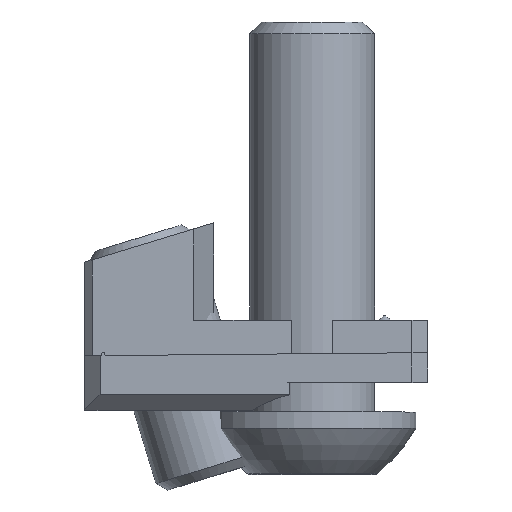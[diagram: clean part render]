
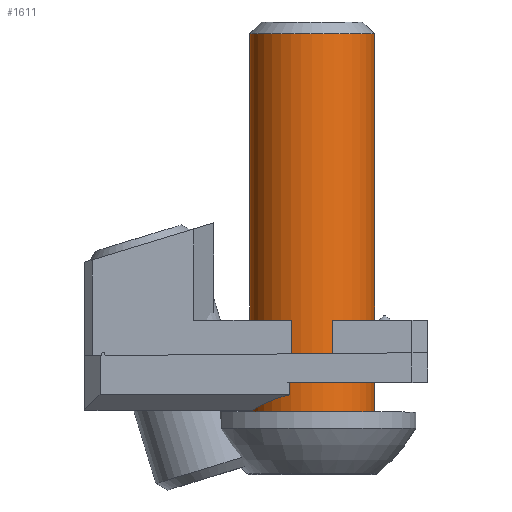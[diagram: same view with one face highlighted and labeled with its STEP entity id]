
A CAD part, top view. The second image highlights one B-rep face of the part: STEP entity #1611.
In plain terms, the highlighted cylindrical face has radius 4 mm (diameter 8 mm), a full revolution.
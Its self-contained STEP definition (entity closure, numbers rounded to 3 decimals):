
#57=CYLINDRICAL_SURFACE('',#1778,4.);
#129=CIRCLE('',#1777,4.);
#130=CIRCLE('',#1779,4.);
#525=ORIENTED_EDGE('',*,*,#787,.F.);
#526=ORIENTED_EDGE('',*,*,#786,.T.);
#786=EDGE_CURVE('',#950,#950,#129,.T.);
#787=EDGE_CURVE('',#951,#951,#130,.T.);
#950=VERTEX_POINT('',#2705);
#951=VERTEX_POINT('',#2708);
#1354=EDGE_LOOP('',(#525));
#1355=EDGE_LOOP('',(#526));
#1463=FACE_BOUND('',#1354,.T.);
#1464=FACE_BOUND('',#1355,.T.);
#1611=ADVANCED_FACE('',(#1463,#1464),#57,.T.);
#1777=AXIS2_PLACEMENT_3D('',#2704,#2218,#2219);
#1778=AXIS2_PLACEMENT_3D('',#2706,#2220,#2221);
#1779=AXIS2_PLACEMENT_3D('',#2707,#2222,#2223);
#2218=DIRECTION('',(1.,0.,0.));
#2219=DIRECTION('',(0.,1.,0.));
#2220=DIRECTION('',(1.,0.,0.));
#2221=DIRECTION('',(0.,1.,0.));
#2222=DIRECTION('',(1.,0.,0.));
#2223=DIRECTION('',(0.,1.,0.));
#2704=CARTESIAN_POINT('',(0.,0.,0.));
#2705=CARTESIAN_POINT('',(0.,4.,0.));
#2706=CARTESIAN_POINT('',(25.,0.,0.));
#2707=CARTESIAN_POINT('',(24.25,0.,0.));
#2708=CARTESIAN_POINT('',(24.25,4.,0.));
